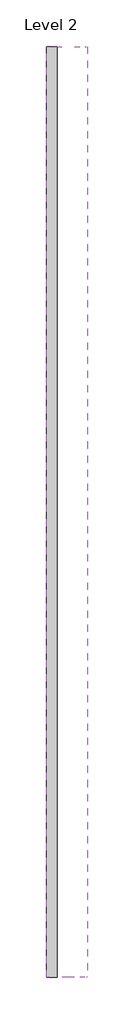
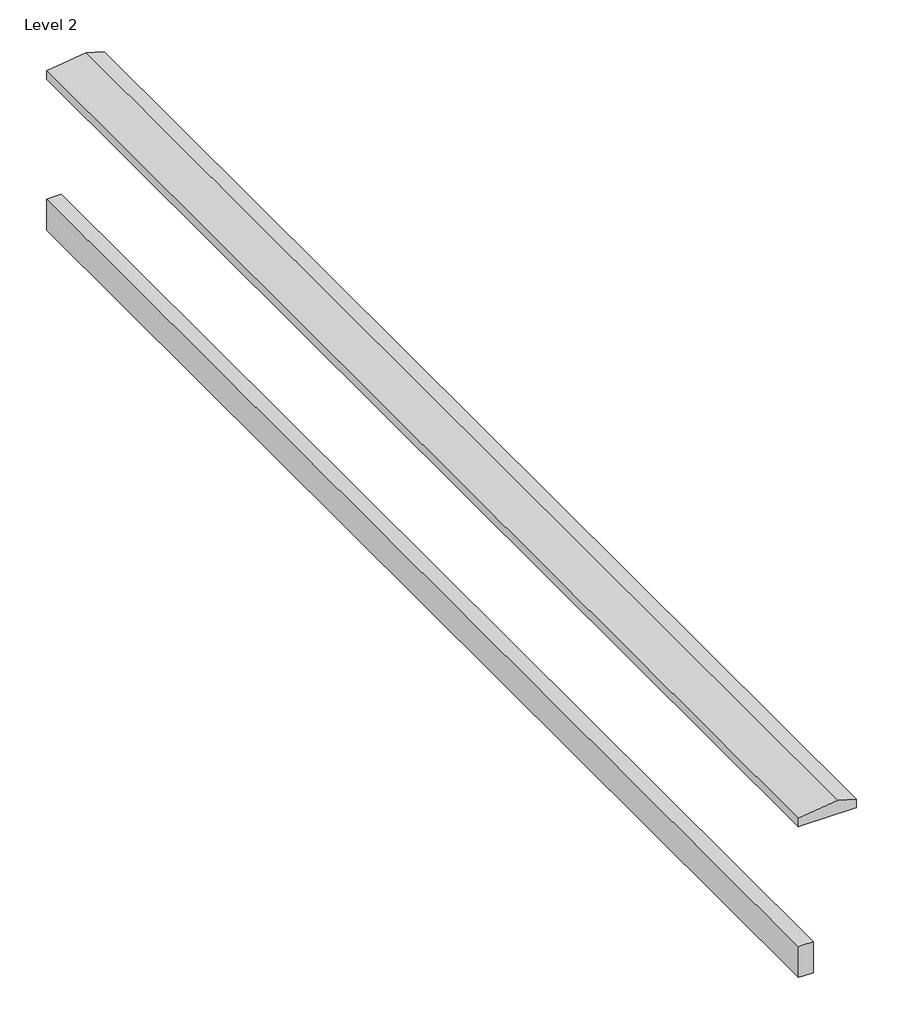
# One storey: 2 proxies.
"""IFC4 building model written with IfcOpenShell, lengths in millimetres."""

from ifc_helpers import new_model, si_unit, origin, place, context, project, spatial, faceted_brep, element, save

model = new_model("IFC4")

# Units and contexts
model_context = context("Model", 3, world=origin())
ifc_project = project(units=[si_unit("LENGTHUNIT", "METRE", prefix="MILLI")], contexts=[model_context])

# Site, building, storey
site = spatial("IfcSite", under=ifc_project)
building = spatial("IfcBuilding", under=site)
storey = spatial("IfcBuildingStorey", under=building, Name="Level 2", Elevation=4000.0)

# Proxies
placement = place(None, origin())
element("IfcBuildingElementProxy", 1, Name="Wall Sweeps", at=placement, inside=storey, context=model_context, shape_type="Brep", body=[
    faceted_brep([(-4806.1440843, 2461.8087064, 5125.0), (-4806.1440843, 2461.8087064, 4900.0), (-4778.6440843, 2461.8087064, 4900.0), (-4703.6440843, 2461.8087064, 4900.0), (-4703.6440843, 2461.8087064, 5125.0), (-4778.6440843, 2461.8087064, 5125.0), (-4806.1440843, 11461.8087064, 5125.0), (-4778.6440843, 11461.8087064, 5125.0), (-4703.6440843, 11461.8087064, 5125.0), (-4703.6440843, 11461.8087064, 4900.0), (-4778.6440843, 11461.8087064, 4900.0), (-4806.1440843, 11461.8087064, 4900.0)], [[[0, 1, 2, 3, 4, 5]], [[6, 7, 8, 9, 10, 11]], [[1, 0, 6, 11]], [[3, 2, 1, 11, 10, 9]], [[4, 3, 9, 8]], [[0, 5, 4, 8, 7, 6]]]),
])
element("IfcBuildingElementProxy", 2, Name="Wall Sweeps", at=placement, inside=storey, context=model_context, shape_type="Brep", body=[
    faceted_brep([(-4806.1440843, 2461.8087064, 6061.9), (-4806.1440843, 2461.8087064, 6000.0), (-4778.6440843, 2461.8087064, 6000.0), (-4431.1440843, 2461.8087064, 6000.0), (-4406.1440843, 2461.8087064, 6000.0), (-4406.1440843, 2461.8087064, 6061.9), (-4532.7440843, 2461.8087064, 6100.0), (-4806.1440843, 11461.8087064, 6061.9), (-4532.7440843, 11461.8087064, 6100.0), (-4406.1440843, 11461.8087064, 6061.9), (-4406.1440843, 11461.8087064, 6000.0), (-4431.1440843, 11461.8087064, 6000.0), (-4778.6440843, 11461.8087064, 6000.0), (-4806.1440843, 11461.8087064, 6000.0)], [[[0, 1, 2, 3, 4, 5, 6]], [[7, 8, 9, 10, 11, 12, 13]], [[1, 0, 7, 13]], [[4, 3, 2, 1, 13, 12, 11, 10]], [[5, 4, 10, 9]], [[6, 5, 9, 8]], [[0, 6, 8, 7]]]),
])

save(model, "model.ifc")
